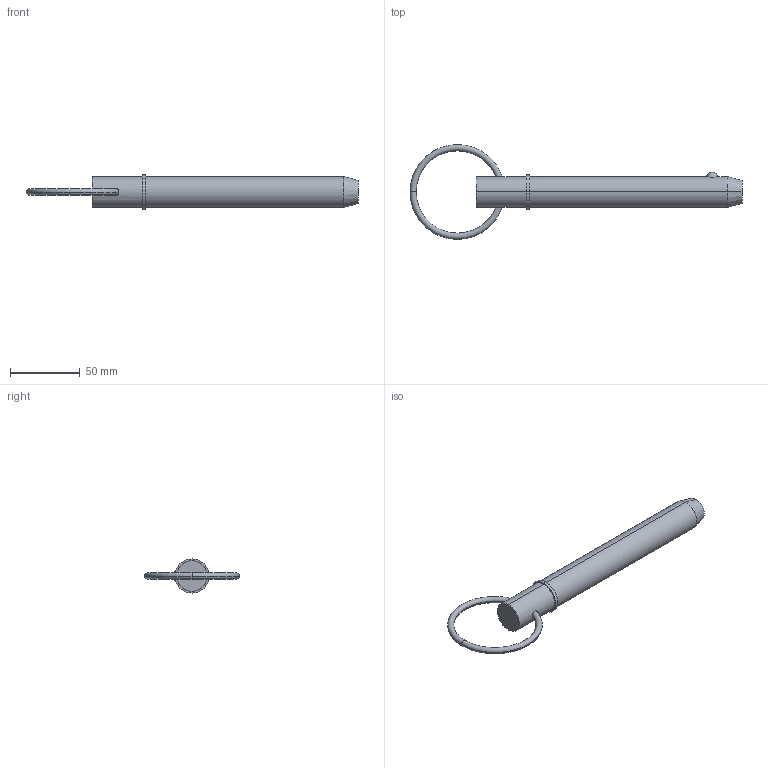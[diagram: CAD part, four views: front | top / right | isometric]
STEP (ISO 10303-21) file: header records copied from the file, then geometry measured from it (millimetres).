
FILE_DESCRIPTION (( 'STEP AP203' ), '1' );
FILE_NAME ('33014.W8850.step', '2024-11-04T08:38:01', ( '' ), ( '' ), 'SwSTEP 2.0', 'SolidWorks 2019', '' );
FILE_SCHEMA (( 'CONFIG_CONTROL_DESIGN' ));
Length unit declared in the file: millimetre
Products named in the file (3): Part2_33014.W8850; Part1_33014.W8850; 33014.W8850
Assembly tree (2 placements, depth 2):
  33014.W8850
    Part1_33014.W8850
    Part2_33014.W8850
Bounding box: 238.11 x 67.95 x 24.45 mm (x, y, z)
Volume: 75850.4 mm3; surface area: 17182.2 mm2
Topology: 2 solids, 2 shells, 22 faces, 43 edges, 26 vertices
Faces by surface type: torus 8, cylinder 6, plane 4, sphere 2, cone 2
Entity records: 1065 total; most frequent: CARTESIAN_POINT 288, DIRECTION 120, ORIENTED_EDGE 86, AXIS2_PLACEMENT_3D 56, EDGE_CURVE 43, CIRCLE 29, EDGE_LOOP 27, PERSON_AND_ORGANIZATION 26
